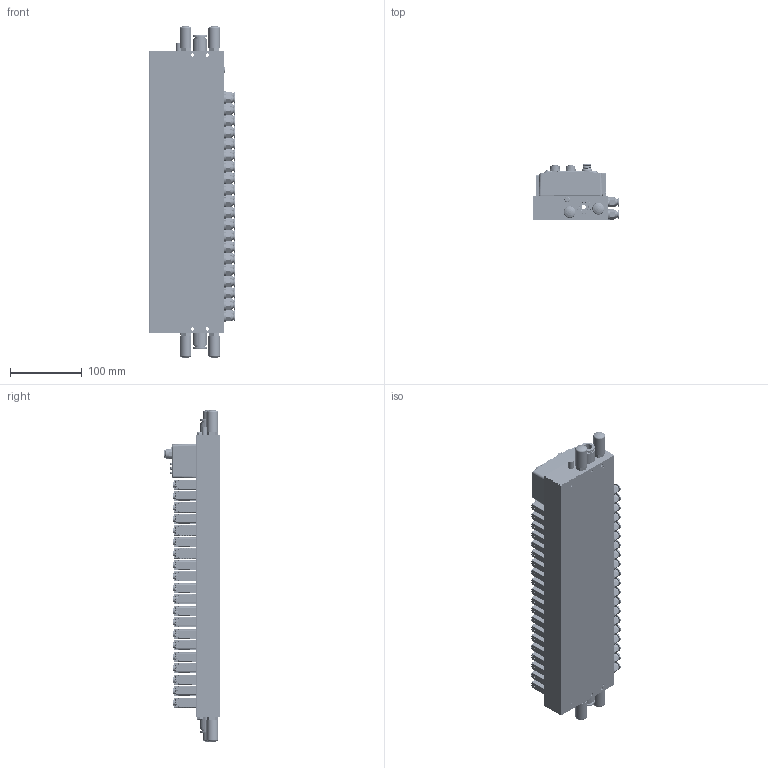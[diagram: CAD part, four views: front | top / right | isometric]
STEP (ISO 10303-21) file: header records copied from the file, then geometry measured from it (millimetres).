
FILE_DESCRIPTION(/* description */ (''),/* implementation_level */ '2;1');
FILE_NAME(/* name */ 'EV-XX-F2-20-X-XX-XX-A-X-C.stp',/* time_stamp */ '2025-09-30T10:23:48+08:00',/* author */ (''),/* organization */ (''),/* preprocessor_version */ 'ST-DEVELOPER v19.4',/* originating_system */ 'SIEMENS PLM Software NX2212.7001',/* authorisation */ '');
FILE_SCHEMA (('AUTOMOTIVE_DESIGN { 1 0 10303 214 3 1 1 1 }'));
Products named in the file (1): EV-EC-F2-A1B9X2-L-12-06-A-I-C_objects
Bounding box: 119.9 x 78.8 x 463 mm (x, y, z)
Volume: 1759952.9 mm3; surface area: 575369.7 mm2
Topology: 68 solids, 133 shells, 18804 faces, 48704 edges, 30813 vertices
Faces by surface type: cylinder 8165, plane 7312, torus 1841, cone 611, bspline 441, sphere 432, extrusion 2
Full cylindrical faces by diameter (mm): 1 x5, 1.05 x5, 1.2 x8, 1.4 x20, 1.5 x20, 1.7 x8, 2.05 x44, 2.15 x2, 2.3 x4, 2.48 x4, 2.5 x3, 2.8 x4, 3.3 x2, 3.446 x6, 3.5 x7, 3.7 x1, 4 x2, 4.134 x5, 4.3 x4, 4.5 x4, 5.1 x40, 5.3 x40, 5.4 x2, 5.5 x122, 6 x1, 6.2 x80, 8 x9, 8.1 x40, 8.3 x1, 8.566 x21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
Entity records: 696645 total; most frequent: CARTESIAN_POINT 131470, DIRECTION 100410, ORIENTED_EDGE 94202, EDGE_CURVE 47101, AXIS2_PLACEMENT_3D 38036, VERTEX_POINT 30302, VECTOR 24338, LINE 24336
